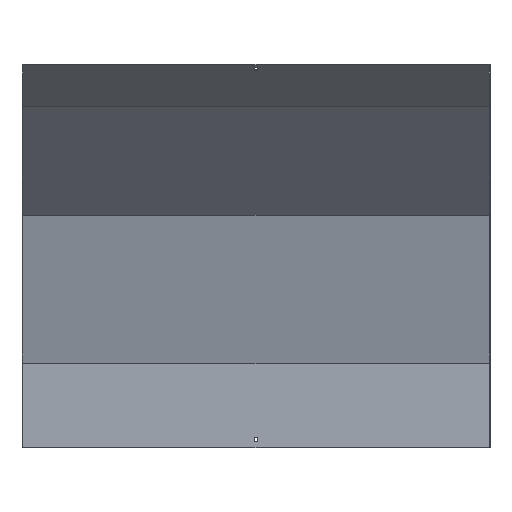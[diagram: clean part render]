
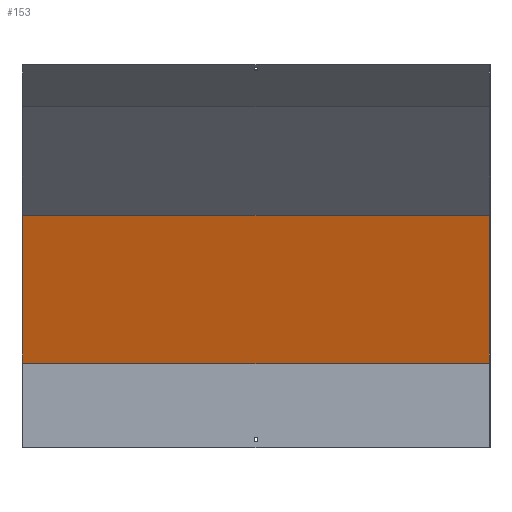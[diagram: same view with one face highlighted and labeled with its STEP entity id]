
A CAD part, front view. The second image highlights one B-rep face of the part: STEP entity #153.
In plain terms, the highlighted planar face has unit normal (0, -0.966, -0.259).
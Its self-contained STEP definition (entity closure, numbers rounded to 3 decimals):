
#5 = VECTOR ( 'NONE', #937, 1000. ) ;
#25 = CARTESIAN_POINT ( 'NONE',  ( 450., 18.5, 162.436 ) ) ;
#87 = VECTOR ( 'NONE', #803, 1000. ) ;
#90 = PLANE ( 'NONE',  #227 ) ;
#95 = ORIENTED_EDGE ( 'NONE', *, *, #606, .F. ) ;
#125 = CARTESIAN_POINT ( 'NONE',  ( -450., 18.5, 162.436 ) ) ;
#153 = ADVANCED_FACE ( 'NONE', ( #837 ), #90, .T. ) ;
#162 = DIRECTION ( 'NONE',  ( 0., 0.259, -0.966 ) ) ;
#171 = ORIENTED_EDGE ( 'NONE', *, *, #704, .F. ) ;
#208 = EDGE_LOOP ( 'NONE', ( #171, #95, #582, #970 ) ) ;
#227 = AXIS2_PLACEMENT_3D ( 'NONE', #383, #584, #162 ) ;
#260 = DIRECTION ( 'NONE',  ( -1., 0., 0. ) ) ;
#325 = LINE ( 'NONE', #713, #589 ) ;
#328 = LINE ( 'NONE', #721, #87 ) ;
#359 = CARTESIAN_POINT ( 'NONE',  ( -450., 57.87, 15.506 ) ) ;
#383 = CARTESIAN_POINT ( 'NONE',  ( 451.5, 17.87, 164.788 ) ) ;
#408 = VERTEX_POINT ( 'NONE', #680 ) ;
#463 = CARTESIAN_POINT ( 'NONE',  ( -450., -58.212, 448.729 ) ) ;
#574 = DIRECTION ( 'NONE',  ( 0., -0.259, 0.966 ) ) ;
#576 = EDGE_CURVE ( 'NONE', #757, #408, #328, .T. ) ;
#582 = ORIENTED_EDGE ( 'NONE', *, *, #576, .T. ) ;
#584 = DIRECTION ( 'NONE',  ( 0., -0.966, -0.259 ) ) ;
#589 = VECTOR ( 'NONE', #260, 1000. ) ;
#599 = VECTOR ( 'NONE', #574, 1000. ) ;
#606 = EDGE_CURVE ( 'NONE', #757, #853, #783, .T. ) ;
#646 = CARTESIAN_POINT ( 'NONE',  ( 451.5, 18.5, 162.436 ) ) ;
#680 = CARTESIAN_POINT ( 'NONE',  ( 450., -58.212, 448.729 ) ) ;
#704 = EDGE_CURVE ( 'NONE', #853, #815, #902, .T. ) ;
#713 = CARTESIAN_POINT ( 'NONE',  ( 451.5, -58.212, 448.729 ) ) ;
#721 = CARTESIAN_POINT ( 'NONE',  ( 450., 57.87, 15.506 ) ) ;
#757 = VERTEX_POINT ( 'NONE', #25 ) ;
#783 = LINE ( 'NONE', #646, #5 ) ;
#803 = DIRECTION ( 'NONE',  ( 0., -0.259, 0.966 ) ) ;
#815 = VERTEX_POINT ( 'NONE', #463 ) ;
#837 = FACE_OUTER_BOUND ( 'NONE', #208, .T. ) ;
#853 = VERTEX_POINT ( 'NONE', #125 ) ;
#902 = LINE ( 'NONE', #359, #599 ) ;
#918 = EDGE_CURVE ( 'NONE', #408, #815, #325, .T. ) ;
#937 = DIRECTION ( 'NONE',  ( -1., 0., 0. ) ) ;
#970 = ORIENTED_EDGE ( 'NONE', *, *, #918, .T. ) ;
